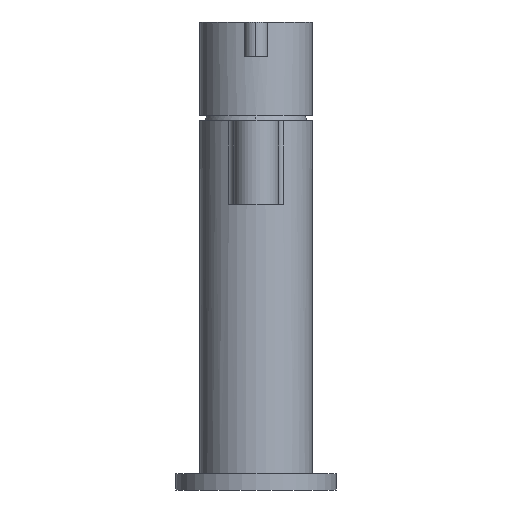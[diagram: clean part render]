
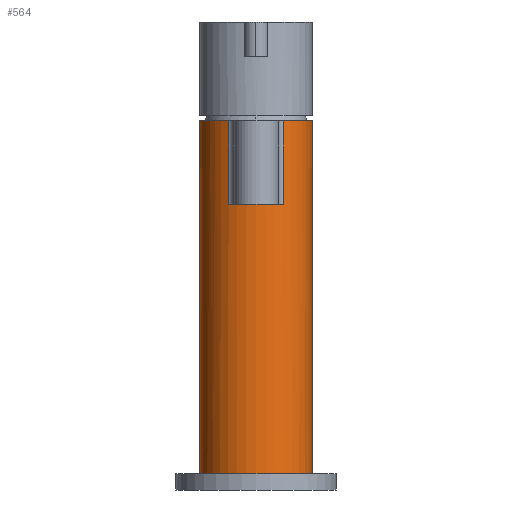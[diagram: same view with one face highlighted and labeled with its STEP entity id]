
A CAD part, front view. The second image highlights one B-rep face of the part: STEP entity #564.
In plain terms, the highlighted cylindrical face has radius 17.5 mm (diameter 35 mm), a partial arc.
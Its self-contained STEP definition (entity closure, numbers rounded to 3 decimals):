
#461 = VERTEX_POINT('',#462);
#462 = CARTESIAN_POINT('',(17.5,0.,
    115.));
#463 = VERTEX_POINT('',#464);
#464 = CARTESIAN_POINT('',(-17.5,0.,
    115.));
#471 = EDGE_CURVE('',#463,#472,#474,.T.);
#472 = VERTEX_POINT('',#473);
#473 = CARTESIAN_POINT('',(-8.537,-15.277,
    115.));
#474 = CIRCLE('',#475,17.5);
#475 = AXIS2_PLACEMENT_3D('',#476,#477,#478);
#476 = CARTESIAN_POINT('',(0.,0.,
    115.));
#477 = DIRECTION('',(0.,0.,1.));
#478 = DIRECTION('',(1.,0.,-0.));
#515 = VERTEX_POINT('',#516);
#516 = CARTESIAN_POINT('',(8.537,-15.277,115.
    ));
#523 = EDGE_CURVE('',#515,#461,#524,.T.);
#524 = CIRCLE('',#525,17.5);
#525 = AXIS2_PLACEMENT_3D('',#526,#527,#528);
#526 = CARTESIAN_POINT('',(0.,0.,
    115.));
#527 = DIRECTION('',(0.,0.,1.));
#528 = DIRECTION('',(1.,0.,-0.));
#543 = VERTEX_POINT('',#544);
#544 = CARTESIAN_POINT('',(-17.5,0.,5.));
#545 = VERTEX_POINT('',#546);
#546 = CARTESIAN_POINT('',(17.5,0.,5.));
#553 = EDGE_CURVE('',#545,#543,#554,.T.);
#554 = CIRCLE('',#555,17.5);
#555 = AXIS2_PLACEMENT_3D('',#556,#557,#558);
#556 = CARTESIAN_POINT('',(0.,0.,5.));
#557 = DIRECTION('',(0.,0.,-1.));
#558 = DIRECTION('',(1.,0.,0.));
#564 = ADVANCED_FACE('',(#565),#605,.T.);
#565 = FACE_BOUND('',#566,.T.);
#566 = EDGE_LOOP('',(#567,#568,#574,#575,#583,#592,#598,#599));
#567 = ORIENTED_EDGE('',*,*,#553,.F.);
#568 = ORIENTED_EDGE('',*,*,#569,.T.);
#569 = EDGE_CURVE('',#545,#461,#570,.T.);
#570 = LINE('',#571,#572);
#571 = CARTESIAN_POINT('',(17.5,0.,
    115.));
#572 = VECTOR('',#573,1.);
#573 = DIRECTION('',(0.,0.,1.));
#574 = ORIENTED_EDGE('',*,*,#523,.F.);
#575 = ORIENTED_EDGE('',*,*,#576,.T.);
#576 = EDGE_CURVE('',#515,#577,#579,.T.);
#577 = VERTEX_POINT('',#578);
#578 = CARTESIAN_POINT('',(8.537,-15.277,89.
    ));
#579 = LINE('',#580,#581);
#580 = CARTESIAN_POINT('',(8.537,-15.277,115.
    ));
#581 = VECTOR('',#582,1.);
#582 = DIRECTION('',(0.,0.,-1.));
#583 = ORIENTED_EDGE('',*,*,#584,.T.);
#584 = EDGE_CURVE('',#577,#585,#587,.T.);
#585 = VERTEX_POINT('',#586);
#586 = CARTESIAN_POINT('',(-8.537,-15.277,
    89.));
#587 = CIRCLE('',#588,17.5);
#588 = AXIS2_PLACEMENT_3D('',#589,#590,#591);
#589 = CARTESIAN_POINT('',(0.,0.,
    89.));
#590 = DIRECTION('',(0.,0.,-1.));
#591 = DIRECTION('',(1.,0.,0.));
#592 = ORIENTED_EDGE('',*,*,#593,.T.);
#593 = EDGE_CURVE('',#585,#472,#594,.T.);
#594 = LINE('',#595,#596);
#595 = CARTESIAN_POINT('',(-8.537,-15.277,
    89.));
#596 = VECTOR('',#597,1.);
#597 = DIRECTION('',(0.,0.,1.));
#598 = ORIENTED_EDGE('',*,*,#471,.F.);
#599 = ORIENTED_EDGE('',*,*,#600,.T.);
#600 = EDGE_CURVE('',#463,#543,#601,.T.);
#601 = LINE('',#602,#603);
#602 = CARTESIAN_POINT('',(-17.5,0.,
    115.));
#603 = VECTOR('',#604,1.);
#604 = DIRECTION('',(0.,0.,-1.));
#605 = CYLINDRICAL_SURFACE('',#606,17.5);
#606 = AXIS2_PLACEMENT_3D('',#607,#608,#609);
#607 = CARTESIAN_POINT('',(0.,0.,5.));
#608 = DIRECTION('',(0.,0.,1.));
#609 = DIRECTION('',(1.,0.,-0.));
